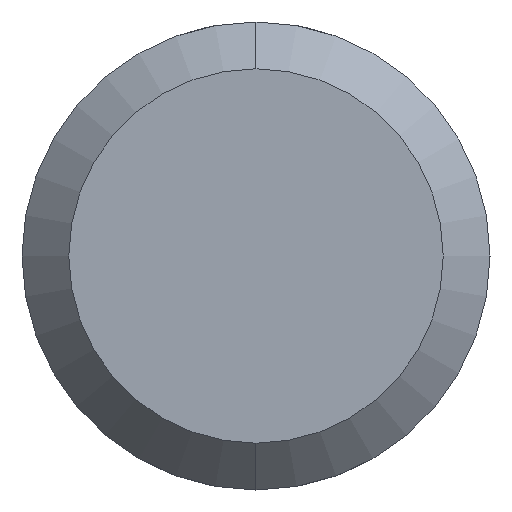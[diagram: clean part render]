
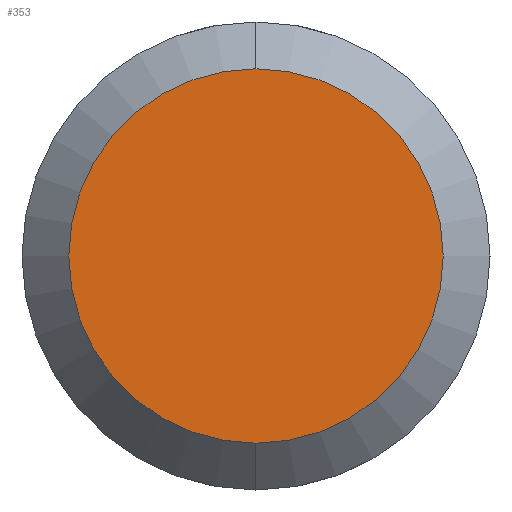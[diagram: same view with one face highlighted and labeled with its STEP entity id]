
A CAD part, left-side view. The second image highlights one B-rep face of the part: STEP entity #353.
In plain terms, the highlighted planar face has unit normal (-1, 0, 0).
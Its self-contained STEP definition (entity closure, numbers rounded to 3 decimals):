
#34 = VERTEX_POINT ( 'NONE', #187 ) ;
#47 = CARTESIAN_POINT ( 'NONE',  ( 0., 7.2, 0. ) ) ;
#67 = CIRCLE ( 'NONE', #92, 7.2 ) ;
#80 = AXIS2_PLACEMENT_3D ( 'NONE', #350, #274, #276 ) ;
#91 = CARTESIAN_POINT ( 'NONE',  ( 0., 0., 0. ) ) ;
#92 = AXIS2_PLACEMENT_3D ( 'NONE', #91, #263, #262 ) ;
#100 = PLANE ( 'NONE',  #279 ) ;
#108 = VERTEX_POINT ( 'NONE', #319 ) ;
#136 = EDGE_CURVE ( 'NONE', #34, #108, #67, .T. ) ;
#144 = FACE_OUTER_BOUND ( 'NONE', #414, .T. ) ;
#156 = EDGE_CURVE ( 'NONE', #108, #34, #366, .T. ) ;
#162 = DIRECTION ( 'NONE',  ( 0., 0., -1. ) ) ;
#187 = CARTESIAN_POINT ( 'NONE',  ( 0., 0., 7.2 ) ) ;
#262 = DIRECTION ( 'NONE',  ( 0., 0., 1. ) ) ;
#263 = DIRECTION ( 'NONE',  ( -1., 0., 0. ) ) ;
#273 = DIRECTION ( 'NONE',  ( 1., 0., 0. ) ) ;
#274 = DIRECTION ( 'NONE',  ( -1., 0., 0. ) ) ;
#276 = DIRECTION ( 'NONE',  ( 0., 0., 1. ) ) ;
#279 = AXIS2_PLACEMENT_3D ( 'NONE', #47, #273, #162 ) ;
#296 = ORIENTED_EDGE ( 'NONE', *, *, #136, .T. ) ;
#319 = CARTESIAN_POINT ( 'NONE',  ( 0., 0., -7.2 ) ) ;
#350 = CARTESIAN_POINT ( 'NONE',  ( 0., 0., 0. ) ) ;
#353 = ADVANCED_FACE ( 'NONE', ( #144 ), #100, .F. ) ;
#366 = CIRCLE ( 'NONE', #80, 7.2 ) ;
#385 = ORIENTED_EDGE ( 'NONE', *, *, #156, .T. ) ;
#414 = EDGE_LOOP ( 'NONE', ( #385, #296 ) ) ;
